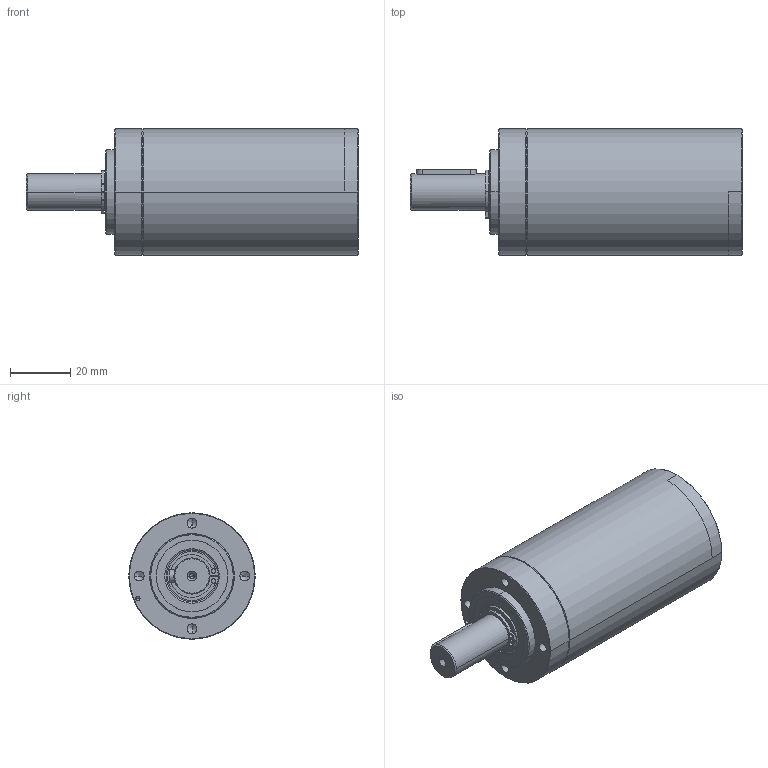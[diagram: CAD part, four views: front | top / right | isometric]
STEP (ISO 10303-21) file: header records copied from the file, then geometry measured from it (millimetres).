
FILE_DESCRIPTION (( 'STEP AP214' ), '1' );
FILE_NAME ('PGx42 - 4 Stage.STEP', '2025-05-12T10:37:47', ( '' ), ( '' ), 'SwSTEP 2.0', 'SolidWorks 2023', '' );
FILE_SCHEMA (( 'AUTOMOTIVE_DESIGN' ));
Length unit declared in the file: millimetre
Products named in the file (1): PGx42 - 4 Stage
Bounding box: 110.25 x 42 x 42 mm (x, y, z)
Volume: 110616.1 mm3; surface area: 16727.4 mm2
Topology: 2 solids, 2 shells, 113 faces, 268 edges, 159 vertices
Faces by surface type: cylinder 49, cone 35, plane 23, torus 6
Entity records: 4642 total; most frequent: CARTESIAN_POINT 713, DIRECTION 613, ORIENTED_EDGE 512, EDGE_CURVE 256, AXIS2_PLACEMENT_3D 251, VERTEX_POINT 159, CIRCLE 137, EDGE_LOOP 131
